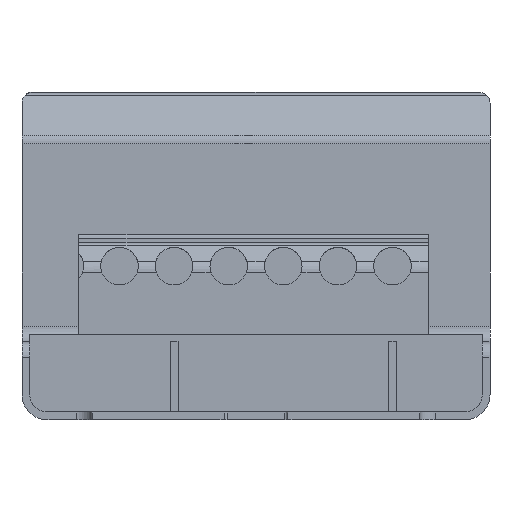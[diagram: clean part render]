
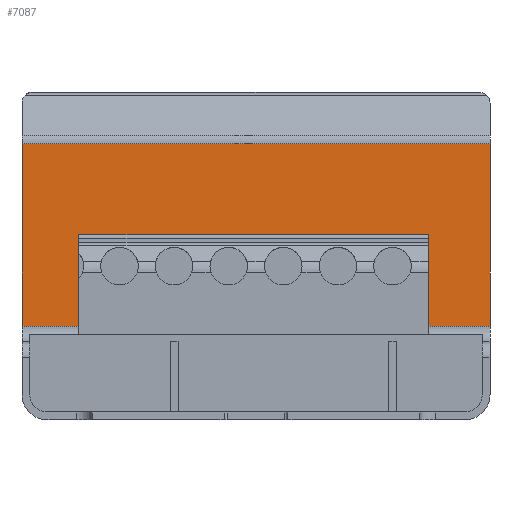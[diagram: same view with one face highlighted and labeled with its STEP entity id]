
A CAD part, front view. The second image highlights one B-rep face of the part: STEP entity #7087.
In plain terms, the highlighted planar face has unit normal (0, -1, 0).
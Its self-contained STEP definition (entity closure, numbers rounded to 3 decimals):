
#2577=DIRECTION('',(1.,0.,0.));
#2578=VECTOR('',#2577,30.);
#2579=CARTESIAN_POINT('',(-15.,-150.7,6.));
#2580=LINE('',#2579,#2578);
#3559=DIRECTION('',(0.,0.,1.));
#3560=VECTOR('',#3559,11.71);
#3561=CARTESIAN_POINT('',(-15.,-150.7,6.));
#3562=LINE('',#3561,#3560);
#3566=DIRECTION('',(1.,0.,0.));
#3567=VECTOR('',#3566,30.);
#3568=CARTESIAN_POINT('',(-15.,-150.7,17.71));
#3569=LINE('',#3568,#3567);
#3573=DIRECTION('',(0.,0.,-1.));
#3574=VECTOR('',#3573,11.71);
#3575=CARTESIAN_POINT('',(15.,-150.7,17.71));
#3576=LINE('',#3575,#3574);
#4523=CARTESIAN_POINT('',(-15.,-150.7,17.71));
#4524=CARTESIAN_POINT('',(15.,-150.7,17.71));
#4525=VERTEX_POINT('',#4523);
#4526=VERTEX_POINT('',#4524);
#4623=CARTESIAN_POINT('',(15.,-150.7,6.));
#4624=VERTEX_POINT('',#4623);
#4625=CARTESIAN_POINT('',(-15.,-150.7,6.));
#4626=VERTEX_POINT('',#4625);
#7075=CARTESIAN_POINT('',(-15.,-150.7,5.45));
#7076=DIRECTION('',(0.,-1.,0.));
#7077=DIRECTION('',(0.,0.,1.));
#7078=AXIS2_PLACEMENT_3D('',#7075,#7076,#7077);
#7079=PLANE('',#7078);
#7080=ORIENTED_EDGE('',*,*,#6407,.F.);
#7081=ORIENTED_EDGE('',*,*,#4684,.T.);
#7083=ORIENTED_EDGE('',*,*,#7082,.T.);
#7084=ORIENTED_EDGE('',*,*,#4864,.T.);
#7085=EDGE_LOOP('',(#7080,#7081,#7083,#7084));
#7086=FACE_OUTER_BOUND('',#7085,.F.);
#4684=EDGE_CURVE('',#4626,#4525,#3562,.T.);
#4864=EDGE_CURVE('',#4526,#4624,#3576,.T.);
#6407=EDGE_CURVE('',#4626,#4624,#2580,.T.);
#7082=EDGE_CURVE('',#4525,#4526,#3569,.T.);
#7087=ADVANCED_FACE('',(#7086),#7079,.T.);
